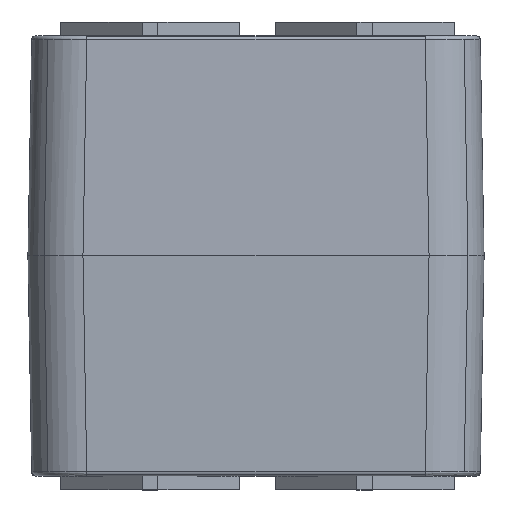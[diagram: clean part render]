
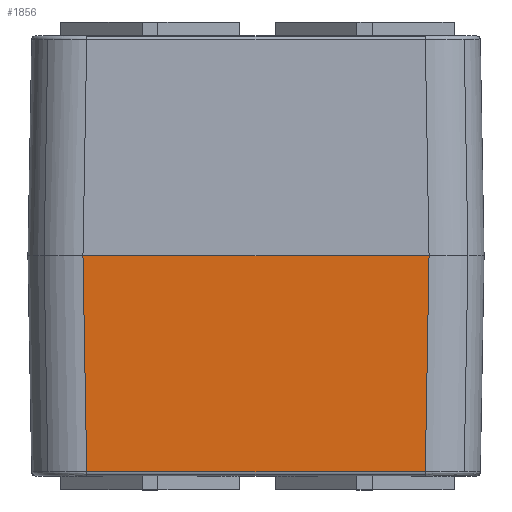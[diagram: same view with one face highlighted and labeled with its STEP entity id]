
A CAD part, top view. The second image highlights one B-rep face of the part: STEP entity #1856.
In plain terms, the highlighted planar face has unit normal (0, -0.018, 1).
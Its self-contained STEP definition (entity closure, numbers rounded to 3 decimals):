
#246=CARTESIAN_POINT('',(-54.823,1.474,78.026));
#247=VERTEX_POINT('',#246);
#255=CARTESIAN_POINT('',(-56.194,80.0,79.396));
#256=VERTEX_POINT('',#255);
#257=CARTESIAN_POINT('',(-54.823,1.474,78.026));
#258=DIRECTION('',(-0.017,1.,0.017));
#259=VECTOR('',#258,78.55);
#260=LINE('',#257,#259);
#261=EDGE_CURVE('',#247,#256,#260,.T.);
#450=CARTESIAN_POINT('',(68.235,1.474,78.026));
#451=VERTEX_POINT('',#450);
#459=CARTESIAN_POINT('',(68.235,1.474,78.026));
#460=DIRECTION('',(-1.0,0.0,0.0));
#461=VECTOR('',#460,123.058);
#462=LINE('',#459,#461);
#463=EDGE_CURVE('',#451,#247,#462,.T.);
#1833=CARTESIAN_POINT('',(88.206,0.0,78.));
#1834=DIRECTION('',(0.0,-0.017,1.));
#1835=DIRECTION('',(1.0,0.0,0.0));
#1836=AXIS2_PLACEMENT_3D('',#1833,#1834,#1835);
#1837=PLANE('',#1836);
#1838=ORIENTED_EDGE('',*,*,#463,.F.);
#1839=CARTESIAN_POINT('',(69.605,80.0,79.396));
#1840=VERTEX_POINT('',#1839);
#1841=CARTESIAN_POINT('',(69.605,80.0,79.396));
#1842=DIRECTION('',(-0.017,-1.,-0.017));
#1843=VECTOR('',#1842,78.55);
#1844=LINE('',#1841,#1843);
#1845=EDGE_CURVE('',#1840,#451,#1844,.T.);
#1846=ORIENTED_EDGE('',*,*,#1845,.F.);
#1847=CARTESIAN_POINT('',(69.605,80.0,79.396));
#1848=DIRECTION('',(-1.0,0.0,0.0));
#1849=VECTOR('',#1848,125.799);
#1850=LINE('',#1847,#1849);
#1851=EDGE_CURVE('',#1840,#256,#1850,.T.);
#1852=ORIENTED_EDGE('',*,*,#1851,.T.);
#1853=ORIENTED_EDGE('',*,*,#261,.F.);
#1854=EDGE_LOOP('',(#1838,#1846,#1852,#1853));
#1855=FACE_OUTER_BOUND('',#1854,.T.);
#1856=ADVANCED_FACE('',(#1855),#1837,.T.);
